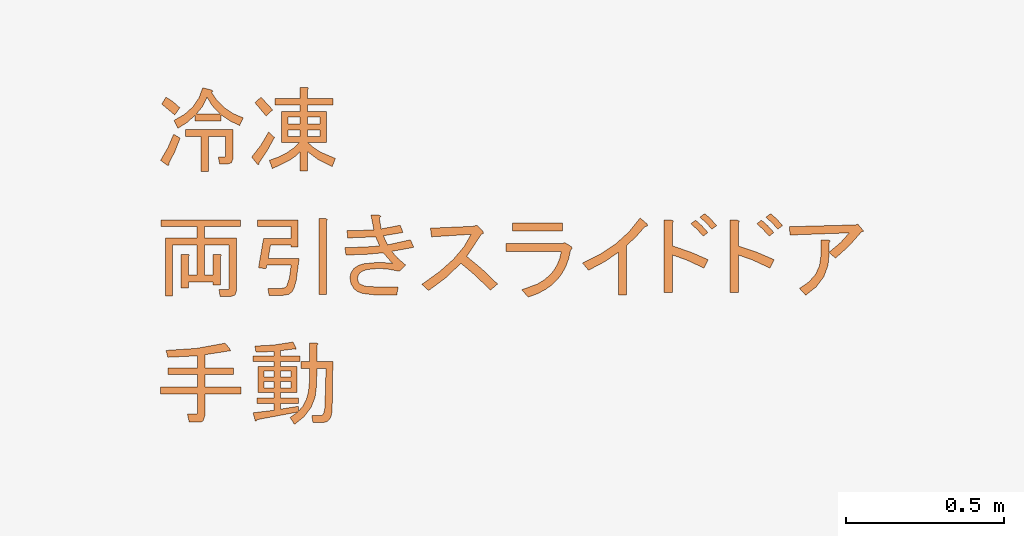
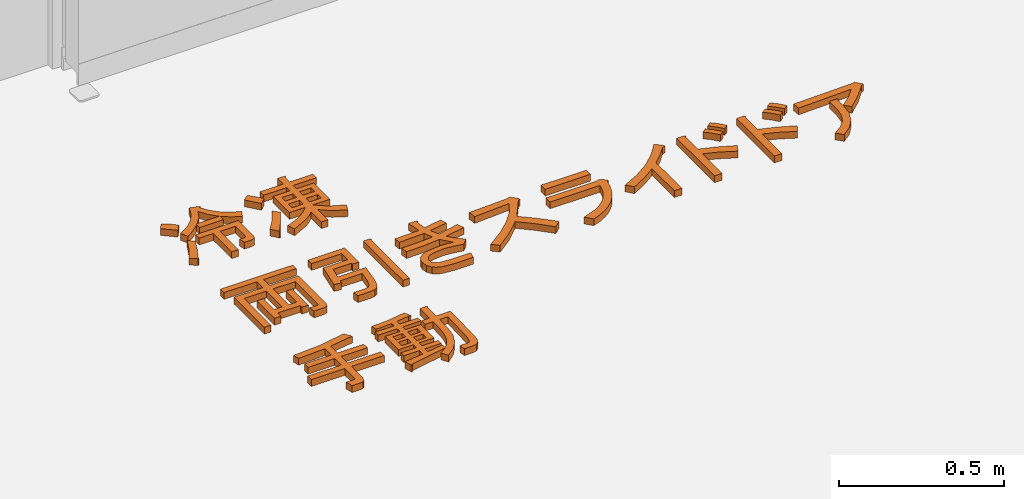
# One storey, part 14 of 16: 1 proxy.
"""IFC2X3 building model written with IfcOpenShell, lengths in millimetres."""

from ifc_helpers import new_model, entity, si_unit, converted_unit, derived_unit, direction, frame, frame_2d, origin, place, context, subcontext, project, spatial, polyline, rectangle, outline, extrude, type_object, element, save


model = new_model("IFC2X3")

# Units and contexts
model_context = context("Model", 3, precision=0.01, world=origin(), true_north=direction((6.123031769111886e-17, 1.0)))
body_context = subcontext(model_context, "Body", "Model", "MODEL_VIEW")
ifc_project = project(units=[si_unit("LENGTHUNIT", "METRE", prefix="MILLI"), si_unit("AREAUNIT", "SQUARE_METRE"), si_unit("VOLUMEUNIT", "CUBIC_METRE"), converted_unit("PLANEANGLEUNIT", "DEGREE", entity("IfcRatioMeasure", 0.017453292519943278), si_unit("PLANEANGLEUNIT", "RADIAN"), dimensions=[0, 0, 0, 0, 0, 0, 0]), si_unit("MASSUNIT", "GRAM", prefix="KILO"), derived_unit("MASSDENSITYUNIT", [(si_unit("MASSUNIT", "GRAM", prefix="KILO"), 1), (si_unit("LENGTHUNIT", "METRE"), -3)]), derived_unit("IONCONCENTRATIONUNIT", [(si_unit("MASSUNIT", "GRAM", prefix="KILO"), 1), (si_unit("LENGTHUNIT", "METRE"), -3)]), derived_unit("MOMENTOFINERTIAUNIT", [(si_unit("LENGTHUNIT", "METRE"), 4)]), si_unit("TIMEUNIT", "SECOND"), si_unit("FREQUENCYUNIT", "HERTZ"), si_unit("THERMODYNAMICTEMPERATUREUNIT", "DEGREE_CELSIUS"), derived_unit("THERMALTRANSMITTANCEUNIT", [(si_unit("MASSUNIT", "GRAM", prefix="KILO"), 1), (si_unit("THERMODYNAMICTEMPERATUREUNIT", "KELVIN"), -1), (si_unit("TIMEUNIT", "SECOND"), -3)]), derived_unit("THERMALCONDUCTANCEUNIT", [(si_unit("MASSUNIT", "GRAM", prefix="KILO"), 1), (si_unit("THERMODYNAMICTEMPERATUREUNIT", "KELVIN"), -1), (si_unit("TIMEUNIT", "SECOND"), -3), (si_unit("LENGTHUNIT", "METRE"), 1)]), derived_unit("VOLUMETRICFLOWRATEUNIT", [(si_unit("LENGTHUNIT", "METRE"), 3), (si_unit("TIMEUNIT", "SECOND"), -1)]), derived_unit("MASSFLOWRATEUNIT", [(si_unit("MASSUNIT", "GRAM", prefix="KILO"), 1), (si_unit("TIMEUNIT", "SECOND"), -1)]), derived_unit("ROTATIONALFREQUENCYUNIT", [(si_unit("TIMEUNIT", "SECOND"), -1)]), si_unit("ELECTRICCURRENTUNIT", "AMPERE"), si_unit("ELECTRICVOLTAGEUNIT", "VOLT"), si_unit("POWERUNIT", "WATT"), si_unit("FORCEUNIT", "NEWTON", prefix="KILO"), si_unit("ILLUMINANCEUNIT", "LUX"), si_unit("LUMINOUSFLUXUNIT", "LUMEN"), si_unit("LUMINOUSINTENSITYUNIT", "CANDELA"), derived_unit("USERDEFINED", [(si_unit("MASSUNIT", "GRAM", prefix="KILO"), -1), (si_unit("LENGTHUNIT", "METRE"), -2), (si_unit("TIMEUNIT", "SECOND"), 3), (si_unit("LUMINOUSFLUXUNIT", "LUMEN"), 1)]), derived_unit("USERDEFINED", [(si_unit("MASSUNIT", "GRAM", prefix="KILO"), 1), (si_unit("TIMEUNIT", "SECOND"), -3), (si_unit("LENGTHUNIT", "METRE"), 3), (si_unit("ELECTRICCURRENTUNIT", "AMPERE"), -2)]), derived_unit("SOUNDPOWERUNIT", [(si_unit("MASSUNIT", "GRAM", prefix="KILO"), 1), (si_unit("TIMEUNIT", "SECOND"), -3), (si_unit("LENGTHUNIT", "METRE"), 2)]), derived_unit("SOUNDPRESSUREUNIT", [(si_unit("MASSUNIT", "GRAM", prefix="KILO"), 1), (si_unit("LENGTHUNIT", "METRE"), -1), (si_unit("TIMEUNIT", "SECOND"), -2)]), derived_unit("LINEARVELOCITYUNIT", [(si_unit("LENGTHUNIT", "METRE"), 1), (si_unit("TIMEUNIT", "SECOND"), -1)]), si_unit("PRESSUREUNIT", "PASCAL"), derived_unit("USERDEFINED", [(si_unit("MASSUNIT", "GRAM", prefix="KILO"), 1), (si_unit("LENGTHUNIT", "METRE"), -2), (si_unit("TIMEUNIT", "SECOND"), -2)]), derived_unit("LINEARFORCEUNIT", [(si_unit("MASSUNIT", "GRAM", prefix="KILO"), 1), (si_unit("TIMEUNIT", "SECOND"), -2)]), derived_unit("PLANARFORCEUNIT", [(si_unit("MASSUNIT", "GRAM", prefix="KILO"), 1), (si_unit("LENGTHUNIT", "METRE"), -1), (si_unit("TIMEUNIT", "SECOND"), -2)]), derived_unit("SPECIFICHEATCAPACITYUNIT", [(si_unit("THERMODYNAMICTEMPERATUREUNIT", "KELVIN"), -1), (si_unit("LENGTHUNIT", "METRE"), 2), (si_unit("TIMEUNIT", "SECOND"), -2)]), derived_unit("HEATINGVALUEUNIT", [(si_unit("LENGTHUNIT", "METRE"), 2), (si_unit("TIMEUNIT", "SECOND"), -2)]), derived_unit("VAPORPERMEABILITYUNIT", [(si_unit("LENGTHUNIT", "METRE"), -1), (si_unit("TIMEUNIT", "SECOND"), 1)]), derived_unit("DYNAMICVISCOSITYUNIT", [(si_unit("MASSUNIT", "GRAM", prefix="KILO"), 1), (si_unit("TIMEUNIT", "SECOND"), -1), (si_unit("LENGTHUNIT", "METRE"), -1)]), derived_unit("THERMALEXPANSIONCOEFFICIENTUNIT", [(si_unit("THERMODYNAMICTEMPERATUREUNIT", "KELVIN"), -1)]), derived_unit("MODULUSOFELASTICITYUNIT", [(si_unit("MASSUNIT", "GRAM", prefix="KILO"), 1), (si_unit("LENGTHUNIT", "METRE"), -1), (si_unit("TIMEUNIT", "SECOND"), -2)]), derived_unit("ISOTHERMALMOISTURECAPACITYUNIT", [(si_unit("LENGTHUNIT", "METRE"), 3), (si_unit("MASSUNIT", "GRAM", prefix="KILO"), -1)]), derived_unit("MOISTUREDIFFUSIVITYUNIT", [(si_unit("TIMEUNIT", "SECOND"), -1), (si_unit("LENGTHUNIT", "METRE"), 2)])], contexts=[model_context])

# Site, building, storey
site_placement = place(None, origin())
site = spatial("IfcSite", under=ifc_project, at=site_placement, Name="Default", CompositionType="ELEMENT")
building_placement = place(site_placement, origin())
building = spatial("IfcBuilding", under=site, at=building_placement, CompositionType="ELEMENT")
storey_placement = place(building_placement, frame((0.0, 0.0, 500.0)))
storey = spatial("IfcBuildingStorey", under=building, at=storey_placement, Name="レベル 1", CompositionType="ELEMENT", Elevation=500.00000000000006)

# Proxy
building_element_proxy_type = type_object("IfcBuildingElementProxyType", Name="立体文字:200㎜\u3000MS Pゴシック", PredefinedType="NOTDEFINED")
proxy_placement = place(storey_placement, origin())
element("IfcBuildingElementProxy", 1, at=proxy_placement, inside=storey, type_object=building_element_proxy_type, Name="立体文字:200㎜\u3000MS Pゴシック", ObjectType="立体文字:200㎜\u3000MS Pゴシック", context=body_context, shape_type="SweptSolid", body=[
    extrude(outline(polyline([(-12.69292841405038, -26.50604676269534), (13.137935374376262, -26.506046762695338), (20.196666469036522, 26.89478847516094), (-7.8336570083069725, 28.22469433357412), (-12.808016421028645, -2.1073892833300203), (-12.69292841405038, -26.50604676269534)])), frame((4373.9474966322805, 26997.184638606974, 0.0), z_axis=(0.0, 0.0, 1.0), x_axis=(-0.5339929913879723, -0.8454889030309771, 0.0)), (0.0, 0.0, 1.0), 25.0),
    extrude(outline(polyline([(-35.744137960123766, -10.84875788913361), (11.518383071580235, -10.848757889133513), (59.5846290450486, -6.865077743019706), (63.770987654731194, 17.99448415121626), (13.954019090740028, 15.607770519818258), (-32.18678147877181, 19.112710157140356), (-41.482035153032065, -10.520278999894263), (-39.415064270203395, -13.632092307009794), (-35.744137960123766, -10.84875788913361)])), frame((4663.316452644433, 26848.6458830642, 0.0), z_axis=(0.0, 0.0, 1.0), x_axis=(0.5532962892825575, 0.8329845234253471, 0.0)), (0.0, 0.0, 1.0), 24.999999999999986),
    extrude(outline(polyline([(-1.5599791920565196, 115.64372063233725), (113.3858560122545, 115.64372063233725), (113.3858560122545, 137.48342932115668), (-139.4949814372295, 137.48342932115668), (-139.4949814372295, 115.64372063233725), (-24.549146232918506, 115.64372063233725), (-24.549146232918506, 80.01051171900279), (-125.70148121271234, 80.01051171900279), (-125.70148121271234, -103.90282460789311), (-102.7123141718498, -103.90282460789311), (-102.7123141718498, 58.17080303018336), (-24.549146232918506, 58.17080303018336), (-24.549146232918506, -37.23424018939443), (-52.136146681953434, -37.23424018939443), (-52.136146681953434, 21.38813576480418), (-48.400407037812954, 25.98596917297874), (-53.28560503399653, 28.284885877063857), (-75.12531372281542, 28.284885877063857), (-75.12531372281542, -78.61474086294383), (-52.136146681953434, -78.61474086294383), (-52.136146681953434, -59.073948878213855), (26.027021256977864, -59.073948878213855), (26.027021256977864, -69.41907404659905), (49.016188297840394, -69.41907404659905), (49.016188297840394, 21.38813576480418), (52.75192794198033, 25.98596917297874), (47.866729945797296, 28.284885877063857), (26.027021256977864, 28.284885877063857), (26.027021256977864, -37.23424018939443), (-1.5599791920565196, -37.23424018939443), (-1.5599791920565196, 58.17080303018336), (76.60318874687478, 58.17080303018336), (76.60318874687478, -78.61474086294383), (75.45373039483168, -82.06311591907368), (72.00535533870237, -83.2125742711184), (44.418354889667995, -83.2125742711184), (47.866729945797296, -105.05228295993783), (83.49993885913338, -105.05228295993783), (95.56925155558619, -101.0291787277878), (99.59235578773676, -88.95986603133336), (99.59235578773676, 80.01051171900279), (-1.5599791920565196, 80.01051171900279), (-1.5599791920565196, 115.64372063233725)])), frame((4481.71742755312, 26496.081566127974, 0.0)), (0.0, 0.0, 1.0), 25.0),
    extrude(outline(polyline([(-158.62525258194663, 7.232008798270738), (-158.62525258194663, -15.757158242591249), (81.61154299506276, -15.757158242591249), (81.61154299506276, 6.082550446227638), (79.31262629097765, 10.967748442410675), (74.71479288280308, 7.232008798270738), (-158.62525258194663, 7.232008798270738)])), frame((4859.143445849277, 26555.4018275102, 0.0), z_axis=(0.0, 0.0, -1.0), x_axis=(0.0, 1.0, 0.0)), (0.0, 0.0, -1.0), 25.0),
    extrude(outline(polyline([(-11.477428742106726, -36.07605005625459), (15.650762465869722, -36.07605005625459), (18.548657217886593, -33.22685941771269), (15.261129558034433, -27.796350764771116), (8.868714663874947, 11.398284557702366), (-3.1003212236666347, 57.192327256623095), (-27.2575615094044, 55.09805037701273), (-16.493952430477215, 9.48664810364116), (-11.477428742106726, -36.07605005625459)])), frame((4371.713236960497, 26844.299493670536, 0.0), z_axis=(0.0, 0.0, 1.0), x_axis=(0.805055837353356, -0.5931990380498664, 0.0)), (0.0, 0.0, 1.0), 25.0),
    extrude(outline(polyline([(-21.439239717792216, -112.61303631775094), (6.8336974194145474, -112.61303631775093), (2.5927568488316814, -77.40037824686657), (-6.017637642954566, -45.78609399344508), (10.432071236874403, -54.010948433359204), (47.44391621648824, 20.012741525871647), (29.966100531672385, 28.751649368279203), (60.93781803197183, 46.35797840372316), (85.9979214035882, 66.27754775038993), (69.54821252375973, 87.35373725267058), (43.46000234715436, 64.89602923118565), (15.058551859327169, 48.414192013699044), (-15.65613893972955, 37.90822560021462), (-48.68407005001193, 33.378129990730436), (-48.298529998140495, 38.6471773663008), (-52.28244386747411, 39.032717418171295), (-73.35863336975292, 14.872207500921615), (-49.68004851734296, -10.059382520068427), (-33.1339546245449, -39.61745316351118), (-23.72035169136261, -73.8020044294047), (-21.439239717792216, -112.61303631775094)]), holes=[polyline([(26.88178011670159, 27.7235425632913), (-7.559797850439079, -41.15961337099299), (-20.668159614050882, -11.473029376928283), (-40.459215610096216, 13.84410069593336), (-9.230471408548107, 16.542881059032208), (26.88178011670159, 27.7235425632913)])]), frame((4493.91502801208, 26979.69131931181, 0.0), z_axis=(0.0, 0.0, 1.0), x_axis=(0.4472135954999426, -0.8944271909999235, 0.0)), (0.0, 0.0, 1.0), 25.0),
    extrude(outline(polyline([(-95.80016952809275, -47.900084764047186), (-95.80016952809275, -69.73979345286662), (53.62941623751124, -69.73979345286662), (53.62941623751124, 24.515791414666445), (49.606312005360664, 35.72301034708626), (37.53699930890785, 39.45874999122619), (12.248915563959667, 39.45874999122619), (7.651082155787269, 17.619041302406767), (26.04241578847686, 17.619041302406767), (29.490790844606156, 16.469582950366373), (30.640249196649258, 13.021207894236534), (30.640249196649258, -47.900084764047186), (-23.384293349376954, -47.900084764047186), (-23.384293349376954, 63.59737538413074), (-46.37346039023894, 63.59737538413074), (-46.37346039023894, -47.900084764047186), (-95.80016952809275, -47.900084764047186)])), frame((4516.185783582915, 26850.028825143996, 0.0), z_axis=(0.0, 0.0, -1.0), x_axis=(1.0, 0.0, 0.0)), (0.0, 0.0, -1.0), 25.0),
    extrude(outline(polyline([(-13.144087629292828, -27.492310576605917), (12.915935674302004, -27.492310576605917), (14.335547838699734, 27.97396470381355), (-14.107395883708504, 27.010656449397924), (-13.144087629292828, -27.492310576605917)])), frame((4667.806524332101, 26992.7592239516, 0.0), z_axis=(0.0, 0.0, 1.0), x_axis=(-0.7498378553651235, -0.6616216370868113, 0.0)), (0.0, 0.0, 1.0), 24.99999999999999),
    extrude(outline(polyline([(-127.45617271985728, 14.342286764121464), (-127.45617271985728, -8.646880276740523), (-65.38542170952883, -8.646880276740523), (-79.53812766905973, -23.23063311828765), (-93.25978674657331, -42.843266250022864), (-119.40996425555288, -97.15517338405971), (-92.97242215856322, -106.3508402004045), (-82.12440896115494, -76.75228763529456), (-69.12116135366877, -51.176839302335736), (-53.96267933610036, -29.62449520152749), (-36.648962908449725, -12.09525533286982), (-36.648962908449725, -67.26925623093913), (62.20445536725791, -67.26925623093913), (62.20445536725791, -8.646880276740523), (81.74524735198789, -8.646880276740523), (81.74524735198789, -89.10896491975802), (103.58495604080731, -89.10896491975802), (103.58495604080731, -8.646880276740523), (138.06870660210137, -8.646880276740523), (138.06870660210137, 13.192828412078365), (135.76978989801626, 18.0780264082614), (131.1719564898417, 14.342286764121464), (103.58495604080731, 14.342286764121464), (103.58495604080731, 94.8043714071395), (81.74524735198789, 94.8043714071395), (81.74524735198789, 14.342286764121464), (62.20445536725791, 14.342286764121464), (62.20445536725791, 74.11412107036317), (-36.648962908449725, 74.11412107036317), (-36.648962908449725, 15.491745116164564), (-52.7413798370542, 33.88307874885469), (-66.53488006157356, 54.57332908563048), (-87.22513039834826, 102.85057987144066), (-112.51321414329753, 92.5054547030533), (-91.5355992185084, 49.400766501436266), (-65.38542170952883, 14.342286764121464), (-127.45617271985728, 14.342286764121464)]), holes=[polyline([(21.973413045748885, 14.342286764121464), (21.973413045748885, 54.57332908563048), (43.81312173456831, 54.57332908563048), (43.81312173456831, 14.342286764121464), (21.973413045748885, 14.342286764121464)]), polyline([(-18.257629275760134, 14.342286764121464), (-18.257629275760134, 54.57332908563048), (3.582079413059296, 54.57332908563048), (3.582079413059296, 14.342286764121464), (-18.257629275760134, 14.342286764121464)]), polyline([(-18.257629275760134, -47.7284642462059), (-18.257629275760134, -8.646880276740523), (3.582079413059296, -8.646880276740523), (3.582079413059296, -47.7284642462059), (-18.257629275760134, -47.7284642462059)]), polyline([(21.973413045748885, -47.7284642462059), (21.973413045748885, -8.646880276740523), (43.81312173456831, -8.646880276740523), (43.81312173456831, -47.7284642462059), (21.973413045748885, -47.7284642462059)])]), frame((4792.261333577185, 26915.037080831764, 0.0), z_axis=(0.0, 0.0, -1.0), x_axis=(0.0, 1.0, 0.0)), (0.0, 0.0, -1.0), 24.99999999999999),
    extrude(outline(polyline([(-56.898188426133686, 16.15361494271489), (-47.702521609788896, -53.675979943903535), (-41.38050067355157, -76.30594124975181), (-33.9090213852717, -90.74601179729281), (-23.276531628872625, -98.50485567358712), (-7.471479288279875, -101.09113696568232), (38.5068547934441, -101.09113696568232), (41.9552298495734, -79.2514282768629), (-0.5747291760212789, -79.2514282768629), (-11.207218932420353, -77.23987616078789), (-17.81660445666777, -71.20521981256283), (-25.862812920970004, -47.35395900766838), (-31.610104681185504, -5.686093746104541), (45.40360490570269, -5.686093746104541), (47.702521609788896, -17.180677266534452), (71.84114700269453, -13.732302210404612), (55.74873007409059, 79.37382430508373), (-30.460646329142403, 79.37382430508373), (-30.460646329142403, 116.1564915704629), (75.28952205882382, 116.1564915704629), (75.28952205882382, 137.99620025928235), (-53.44981337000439, 137.99620025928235), (-53.44981337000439, 51.786823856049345), (-30.460646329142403, 51.786823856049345), (-30.460646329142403, 57.5341156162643), (33.9090213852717, 57.5341156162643), (40.805771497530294, 16.15361494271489), (-56.898188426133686, 16.15361494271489)])), frame((4723.267889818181, 26495.568795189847, 0.0), z_axis=(0.0, 0.0, -1.0), x_axis=(-1.0, 0.0, 0.0)), (0.0, 0.0, -1.0), 25.0),
    extrude(outline(polyline([(42.16317553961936, 67.93889097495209), (105.09011528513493, 67.93889097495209), (100.93277992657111, 91.93805418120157), (38.95068912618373, 90.61526565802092), (38.95068912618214, 125.57467662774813), (44.714267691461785, 130.4406486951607), (39.32862870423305, 134.83419629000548), (14.384616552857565, 138.9915316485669), (15.707405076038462, 90.99320523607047), (-68.57312082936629, 102.7093321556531), (-70.08487914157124, 79.65501789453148), (17.7860727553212, 68.50580034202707), (25.53383410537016, 38.081664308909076), (-27.850131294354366, 42.90039392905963), (-84.068643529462, 51.6874891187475), (-84.63555289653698, 27.310386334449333), (-23.40934125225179, 18.85398827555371), (33.28159545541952, 14.649410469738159), (56.14693992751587, -22.955577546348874), (15.896374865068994, -12.751208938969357), (-34.794771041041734, -9.255267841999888), (-53.0894087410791, -12.396890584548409), (-66.68342293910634, -18.79824218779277), (-78.30506496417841, -30.84506623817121), (-84.06864352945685, -46.19886159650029), (-83.92691618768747, -66.32414412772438), (-76.32088217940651, -83.61487982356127), (-66.87239272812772, -93.34682395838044), (-53.64450749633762, -101.378039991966), (-15.850549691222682, -112.33828775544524), (53.312393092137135, -123.86544488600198), (62.00500338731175, -99.6773118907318), (-7.157939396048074, -88.15015476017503), (-40.51110715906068, -80.26066606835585), (-56.668024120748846, -70.57596438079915), (-60.44741990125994, -61.78886919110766), (-60.447419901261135, -51.301045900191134), (-56.99872125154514, -42.844647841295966), (-49.676141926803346, -35.616553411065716), (-39.896955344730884, -31.128520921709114), (-26.43285787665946, -29.002610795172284), (11.550069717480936, -31.837157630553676), (39.234143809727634, -38.78179737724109), (74.6659792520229, -51.6789854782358), (97.15338414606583, -35.61655341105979), (75.98876777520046, -10.530813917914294), (60.115305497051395, 14.83838025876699), (131.35691595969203, 15.783229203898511), (125.12091292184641, 41.29415072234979), (51.04475562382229, 37.32578515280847), (42.16317553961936, 67.93889097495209)])), frame((5016.420000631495, 26509.042735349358, 0.0), z_axis=(0.0, 0.0, 1.0), x_axis=(0.9863939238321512, 0.16439898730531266, 0.0)), (0.0, 0.0, 1.0), 25.0),
    extrude(outline(polyline([(5.525091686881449, 11.308020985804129), (-1.65260318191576, 74.77664998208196), (-13.951595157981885, 140.91623239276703), (-42.898742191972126, 132.40700027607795), (-29.969436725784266, 67.22864593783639), (-22.823257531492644, 7.9043281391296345), (-87.3476616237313, -7.17198265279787), (-151.01326358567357, -30.371458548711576), (-146.64834266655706, -59.350121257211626), (-83.07334826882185, -34.71668217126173), (-25.48633202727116, -19.21490977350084), (26.11270605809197, -12.844804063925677), (71.72376598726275, -15.60636504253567), (-3.7090009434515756, -115.9680305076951), (17.46953232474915, -133.9792384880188), (95.39203754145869, -25.628349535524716), (105.8394836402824, -15.984553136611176), (100.54485032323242, 9.480111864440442), (96.59357263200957, 15.507484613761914), (89.3725437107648, 11.308020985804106), (5.525091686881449, 11.308020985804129)])), frame((5298.775823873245, 26519.05020712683, 0.0), z_axis=(0.0, 0.0, -1.0), x_axis=(0.5483569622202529, 0.8362443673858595, 0.0)), (0.0, 0.0, -1.0), 24.999999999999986),
    extrude(rectangle(XDim=25.28808374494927, YDim=158.62525258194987, at=frame_2d((0.0, 5.400124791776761e-13), x_axis=(1.0, 0.0))), frame((5535.865977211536, 26610.57582840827, 0.0), z_axis=(0.0, 0.0, 1.0), x_axis=(0.0, 1.0, 0.0)), (0.0, 0.0, 1.0), 25.0),
    extrude(outline(polyline([(-7.067429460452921, -114.57770295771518), (23.861331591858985, -114.57770295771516), (34.91361114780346, -87.53105676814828), (42.054406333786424, -61.071800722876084), (45.28371714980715, -35.19993482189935), (44.60154359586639, -9.915459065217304), (40.007885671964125, 14.781626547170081), (31.502743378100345, 38.89132201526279), (19.08611671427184, 62.41362733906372), (2.758005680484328, 85.34854251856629), (2.587128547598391, 92.46130317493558), (-3.3935711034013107, 93.97783772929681), (-26.63286117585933, 87.0573138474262), (-30.99022806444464, 77.0610015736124), (-148.63913405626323, -53.660005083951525), (-129.8426494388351, -70.57684123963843), (-12.96269054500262, 59.28977975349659), (0.06268590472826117, 40.873763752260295), (9.577071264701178, 21.5099136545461), (15.580465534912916, 1.1982294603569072), (18.072868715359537, -20.061288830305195), (17.054280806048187, -42.26864121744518), (12.524701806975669, -65.42382770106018), (-7.067429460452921, -114.57770295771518)])), frame((5575.182606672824, 26483.11479686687, 0.0), z_axis=(0.0, 0.0, 1.0), x_axis=(0.6689647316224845, -0.743294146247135, 0.0)), (0.0, 0.0, 1.0), 25.0),
    extrude(outline(polyline([(-48.37103629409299, -122.60496373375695), (-18.199122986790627, -122.60496373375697), (-5.806305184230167, -66.7606495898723), (-0.06970047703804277, -14.310128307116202), (102.4009484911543, -101.41017993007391), (119.52318086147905, -81.26637714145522), (0.4119991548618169, 19.978127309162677), (-1.8541786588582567, 63.01361033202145), (-7.776894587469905, 100.85987459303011), (-4.175095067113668, 111.75285490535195), (-10.448138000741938, 113.69060115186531), (-38.60567102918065, 108.96118658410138), (-28.016489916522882, 54.419650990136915), (-26.11432375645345, -2.3552192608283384), (-32.89917254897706, -61.36342416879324), (-48.37103629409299, -122.60496373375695)])), frame((5802.408127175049, 26539.3285682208, 0.0), z_axis=(0.0, 0.0, 1.0), x_axis=(0.6476484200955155, -0.7619393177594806, 0.0)), (0.0, 0.0, 1.0), 24.99999999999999),
    extrude(outline(polyline([(-12.157107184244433, -94.42389149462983), (17.662421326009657, -94.42389149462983), (13.120814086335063, -32.29248903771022), (3.74959524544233, 26.670865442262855), (67.95241368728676, 60.16798810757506), (75.55129799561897, 59.270743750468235), (74.51005145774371, 67.47886805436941), (63.8760442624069, 87.8607151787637), (-139.9424269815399, -18.479356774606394), (-127.71331870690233, -41.918480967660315), (-21.727713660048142, 13.378356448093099), (-14.882071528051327, -33.28942721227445), (-12.157107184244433, -94.42389149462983)])), frame((5984.5484239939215, 26535.142624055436, 0.0), z_axis=(0.0, 0.0, 1.0), x_axis=(0.46256600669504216, 0.886584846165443, 0.0)), (0.0, 0.0, 1.0), 25.0),
    extrude(outline(polyline([(-6.552827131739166, -26.742776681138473), (12.299691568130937, -26.742776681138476), (10.635203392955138, 1.7287315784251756), (5.361404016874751, 26.450761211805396), (-13.49111468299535, 26.450761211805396), (-8.25235716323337, -1.1447006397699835), (-6.552827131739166, -26.742776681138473)])), frame((6076.816403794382, 26628.87137384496, 0.0), z_axis=(0.0, 0.0, 1.0), x_axis=(0.7926239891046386, 0.6097107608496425, 0.0)), (0.0, 0.0, 1.0), 24.999999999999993),
    extrude(outline(polyline([(-12.157107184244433, -94.42389149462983), (17.662421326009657, -94.42389149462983), (13.120814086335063, -32.29248903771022), (3.74959524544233, 26.670865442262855), (67.95241368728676, 60.16798810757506), (75.55129799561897, 59.270743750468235), (74.51005145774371, 67.47886805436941), (63.8760442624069, 87.8607151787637), (-139.9424269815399, -18.479356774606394), (-127.71331870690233, -41.918480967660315), (-21.727713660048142, 13.378356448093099), (-14.882071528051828, -33.28942721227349), (-12.157107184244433, -94.42389149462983)])), frame((6193.473974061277, 26535.142624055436, 0.0), z_axis=(0.0, 0.0, 1.0), x_axis=(0.46256600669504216, 0.886584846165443, 0.0)), (0.0, 0.0, 1.0), 25.0),
    extrude(outline(polyline([(-6.552827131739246, -26.742776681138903), (12.29969156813, -26.742776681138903), (10.635203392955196, 1.7287315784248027), (5.361404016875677, 26.45076121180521), (-13.491114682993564, 26.45076121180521), (-8.252357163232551, -1.144700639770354), (-6.552827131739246, -26.742776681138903)])), frame((6285.741953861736, 26628.87137384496, 0.0), z_axis=(0.0, 0.0, 1.0), x_axis=(0.7926239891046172, 0.6097107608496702, 0.0)), (0.0, 0.0, 1.0), 25.0),
    extrude(outline(polyline([(1.6456649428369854, -1.9420361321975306), (28.48004036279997, -1.9420361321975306), (33.35454158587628, 58.287596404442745), (31.237333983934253, 115.88302878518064), (35.434821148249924, 120.22822810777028), (33.05911726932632, 122.33312636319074), (6.32321662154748, 125.58279384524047), (2.0395640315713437, 118.39413547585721), (-146.36191764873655, -29.170310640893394), (-126.56848843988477, -46.84653224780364), (5.141519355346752, 86.5867840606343), (6.360144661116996, 46.29829289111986), (0.8578667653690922, -1.1050005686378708), (-19.62488584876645, 20.657924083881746), (-20.85582050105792, 26.99723754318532), (-26.81354421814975, 24.94157667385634), (-44.39129105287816, 8.397814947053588), (-10.515969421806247, -27.594714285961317), (7.963437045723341, -53.413568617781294), (17.709362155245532, -82.32206892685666), (18.721805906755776, -114.32021521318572), (11.000768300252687, -149.40800747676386), (40.19853825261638, -151.9191141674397), (46.411680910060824, -109.56880745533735), (42.0572495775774, -70.45585887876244), (27.13524425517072, -34.58026843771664), (1.6456649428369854, -1.9420361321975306)])), frame((6459.933230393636, 26532.65581512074, 0.0), z_axis=(0.0, 0.0, 1.0), x_axis=(0.7281999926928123, -0.6853646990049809, 0.0)), (0.0, 0.0, 1.0), 25.0),
    extrude(outline(polyline([(-124.6220880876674, -82.68511068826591), (-102.03881467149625, -82.6851106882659), (-82.49784751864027, 9.63718322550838), (-45.81465468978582, -0.016288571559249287), (-69.50954000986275, -90.05685278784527), (-48.38891383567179, -95.6149123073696), (-24.694028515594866, -5.574348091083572), (13.10077621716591, -15.520349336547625), (-16.737227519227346, -128.90476353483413), (4.3833986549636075, -134.46282305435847), (34.22140239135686, -21.07840885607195), (93.13683329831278, -36.58246962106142), (95.59408066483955, -40.79489367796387), (88.28084445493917, -68.58519127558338), (114.19895358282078, -69.46277962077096), (121.80471924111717, -40.5608701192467), (122.72984362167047, -31.964160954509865), (120.53221614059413, -25.071435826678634), (106.76870559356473, -16.39793768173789), (40.07199135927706, 1.153829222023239), (69.32493619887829, 112.31501961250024), (48.20431002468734, 117.87307913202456), (18.951365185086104, 6.711888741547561), (-18.843439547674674, 16.657889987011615), (4.266386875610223, 104.47523039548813), (-16.854239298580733, 110.03328991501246), (-39.96406572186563, 22.21594950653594), (-79.98209426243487, 32.74700964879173), (-72.37632860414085, 106.81546598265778), (-70.25549010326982, 114.87465228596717), (-77.58335278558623, 114.1287021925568), (-99.17202607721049, 104.35821861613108), (-106.23661225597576, 12.021298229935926), (-124.6220880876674, -82.68511068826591)])), frame((4469.99301456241, 26120.29545367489, 0.0), z_axis=(0.0, 0.0, 1.0), x_axis=(0.2544932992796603, -0.9670745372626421, 0.0)), (0.0, 0.0, 1.0), 24.99999999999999),
    extrude(outline(polyline([(81.13582505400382, -63.75997573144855), (106.96668884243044, -63.75997573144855), (102.7691734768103, -25.33656584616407), (90.27892783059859, 8.297904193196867), (69.495951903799, 37.14343438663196), (40.4202456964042, 61.20002473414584), (-4.643102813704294, 91.02060609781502), (10.701964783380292, 115.3169631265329), (114.79267331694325, 45.49690555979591), (127.79761810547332, 32.185059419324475), (129.20744619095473, 25.941535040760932), (127.22217807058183, 19.97294312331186), (113.1047158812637, -2.379705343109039), (133.4113553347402, -11.126393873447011), (149.98402833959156, 15.113671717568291), (154.54918594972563, 27.18512489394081), (152.89959118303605, 39.10312739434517), (145.0352440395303, 50.86767921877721), (130.95614451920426, 62.478780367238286), (3.8989848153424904, 145.4444458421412), (-23.108334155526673, 102.6828574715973), (-66.84177680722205, 130.30397914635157), (-68.73433514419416, 135.91771637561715), (-73.28670519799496, 133.01494108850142), (-84.94895657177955, 114.54970974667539), (-35.384388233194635, 83.24577184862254), (-50.115653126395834, 59.92126910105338), (-31.65042178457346, 48.259017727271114), (-16.919156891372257, 71.58352047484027), (20.369357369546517, 46.67336074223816), (43.10243563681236, 29.256709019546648), (60.407196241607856, 10.510151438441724), (72.28363918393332, -9.56631200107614), (78.7317644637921, -30.972681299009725), (65.12580452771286, -22.379443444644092), (42.210503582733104, -75.88257913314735), (27.63268936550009, -66.67553857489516), (58.32282455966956, -18.08282451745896), (42.773156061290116, -8.261981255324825), (12.083020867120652, -56.85469531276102), (-2.494793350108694, -47.64765475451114), (25.740131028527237, -2.9423578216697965), (-43.2615229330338, 40.63763415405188), (-71.49644731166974, -4.067662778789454), (-85.10240724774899, 4.525575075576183), (-51.34325853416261, 57.97756053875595), (-66.89292703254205, 67.79840380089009), (-100.65207574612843, 14.346418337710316), (-114.25803568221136, 22.939656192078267), (-95.7928043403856, 62.939132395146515), (-90.65220669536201, 67.84955402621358), (-94.05369667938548, 69.99786348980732), (-116.0994437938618, 71.68582092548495), (-141.38044266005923, 13.898853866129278), (-169.8583306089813, -37.110708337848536), (-151.49539971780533, -44.62979146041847), (-122.74897308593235, 5.190528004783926), (-111.08672171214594, -2.1751044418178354), (-146.6872785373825, -58.54265274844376), (-131.13761003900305, -68.36349601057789), (-95.53705321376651, -11.995947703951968), (-81.93109327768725, -20.589185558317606), (-109.5522149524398, -64.32262821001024), (-40.550560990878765, -107.90262018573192), (-12.929439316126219, -64.16917753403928), (1.6483749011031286, -73.37621809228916), (-27.200352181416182, -119.05336930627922), (-11.650683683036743, -128.87421256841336), (17.198043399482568, -83.1970613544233), (34.691420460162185, -94.24551002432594), (5.893843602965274, -154.90967725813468), (30.957454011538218, -162.5822110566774), (34.16713065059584, -160.19093802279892), (31.110904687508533, -155.8815315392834), (79.44786761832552, -34.14399526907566), (81.13582505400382, -63.75997573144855)]), holes=[polyline([(-31.650421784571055, -29.233573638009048), (-13.850143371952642, -1.0497994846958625), (3.643233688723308, -12.098248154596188), (-14.157044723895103, -40.28202230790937), (-31.650421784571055, -29.233573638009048)]), polyline([(-59.83419593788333, -11.433295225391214), (-42.03391752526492, 16.75047892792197), (-25.512394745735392, 6.315832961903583), (-43.312673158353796, -21.867941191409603), (-59.83419593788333, -11.433295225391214)]), polyline([(-59.27154345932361, -72.96701628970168), (-42.08506775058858, -45.755096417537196), (-24.591690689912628, -56.80354508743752), (-41.778166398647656, -84.01546495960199), (-59.27154345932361, -72.96701628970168)]), polyline([(-87.45531761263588, -55.16673787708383), (-70.26884190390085, -27.954818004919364), (-53.74731912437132, -38.38946397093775), (-70.93379483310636, -65.60138384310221), (-87.45531761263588, -55.16673787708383)])]), frame((4762.012009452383, 26109.768519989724, 0.0), z_axis=(0.0, 0.0, 1.0), x_axis=(0.5339929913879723, -0.8454889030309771, 0.0)), (0.0, 0.0, 1.0), 25.0),
    extrude(outline(polyline([(-6.31921475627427, -28.010123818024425), (12.533303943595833, -28.010123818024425), (10.360708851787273, 1.2147843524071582), (5.384765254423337, 26.795339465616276), (-13.467753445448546, 26.795339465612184), (-8.49180984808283, 1.2147843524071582), (-6.31921475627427, -28.010123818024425)])), frame((6048.271521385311, 26607.89375892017, 0.0), z_axis=(0.0, 0.0, 1.0), x_axis=(0.7926239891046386, 0.6097107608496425, 0.0)), (0.0, 0.0, 1.0), 24.999999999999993),
    extrude(outline(polyline([(-6.31921475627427, -28.010123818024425), (12.533303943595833, -28.010123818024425), (10.360708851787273, 1.2147843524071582), (5.384765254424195, 26.79533946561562), (-13.467753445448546, 26.795339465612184), (-8.49180984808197, 1.2147843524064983), (-6.31921475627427, -28.010123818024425)])), frame((6257.197071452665, 26607.89375892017, 0.0), z_axis=(0.0, 0.0, 1.0), x_axis=(0.7926239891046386, 0.6097107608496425, 0.0)), (0.0, 0.0, 1.0), 24.999999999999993),
])

save(model, "model.ifc")
